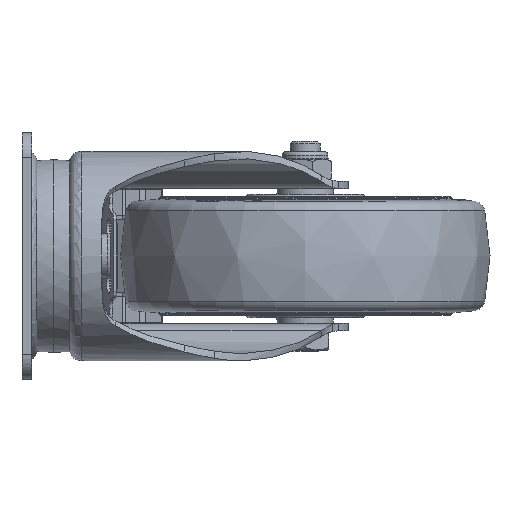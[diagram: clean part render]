
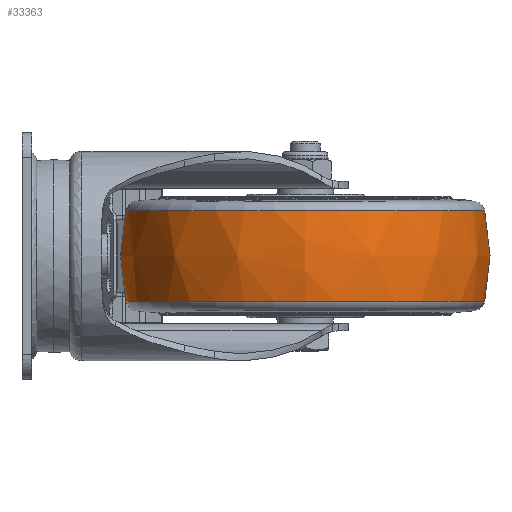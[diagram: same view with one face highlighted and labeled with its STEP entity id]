
A CAD part, left-side view. The second image highlights one B-rep face of the part: STEP entity #33363.
In plain terms, the highlighted free-form (B-spline) face has degree [2, 2] with [3, 9] control points.
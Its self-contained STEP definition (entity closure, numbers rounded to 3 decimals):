
#467=(
BOUNDED_SURFACE()
B_SPLINE_SURFACE(2,2,((#52019,#52020,#52021,#52022,#52023,#52024,#52025,
#52026,#52027),(#52028,#52029,#52030,#52031,#52032,#52033,#52034,#52035,
#52036),(#52037,#52038,#52039,#52040,#52041,#52042,#52043,#52044,#52045)),
 .UNSPECIFIED.,.F.,.T.,.F.)
B_SPLINE_SURFACE_WITH_KNOTS((3,3),(3,2,2,2,3),(-0.233,0.233),
(-3.142,-1.571,0.,1.571,3.142),
 .UNSPECIFIED.)
GEOMETRIC_REPRESENTATION_ITEM()
RATIONAL_B_SPLINE_SURFACE(((1.,0.707,1.,0.707,1.,
0.707,1.,0.707,1.),(0.973,0.688,
0.973,0.688,0.973,0.688,0.973,
0.688,0.973),(1.,0.707,1.,0.707,
1.,0.707,1.,0.707,1.)))
REPRESENTATION_ITEM('')
SURFACE()
);
#6834=FACE_OUTER_BOUND('',#8913,.T.);
#8913=EDGE_LOOP('',(#23694,#23695,#23696,#23697));
#10754=CIRCLE('',#35371,72.847);
#10755=CIRCLE('',#35372,72.847);
#10756=CIRCLE('',#35373,80.);
#13893=VERTEX_POINT('',#52016);
#13894=VERTEX_POINT('',#52046);
#17515=EDGE_CURVE('',#13893,#13893,#10754,.T.);
#17516=EDGE_CURVE('',#13894,#13894,#10755,.T.);
#17517=EDGE_CURVE('',#13894,#13893,#10756,.T.);
#23694=ORIENTED_EDGE('',*,*,#17516,.F.);
#23695=ORIENTED_EDGE('',*,*,#17517,.T.);
#23696=ORIENTED_EDGE('',*,*,#17515,.F.);
#23697=ORIENTED_EDGE('',*,*,#17517,.F.);
#33363=ADVANCED_FACE('',(#6834),#467,.F.);
#35371=AXIS2_PLACEMENT_3D('',#52018,#38541,#38542);
#35372=AXIS2_PLACEMENT_3D('',#52047,#38543,#38544);
#35373=AXIS2_PLACEMENT_3D('',#52048,#38545,#38546);
#38541=DIRECTION('center_axis',(0.,0.,
-1.));
#38542=DIRECTION('ref_axis',(0.,1.,0.));
#38543=DIRECTION('center_axis',(0.,0.,
1.));
#38544=DIRECTION('ref_axis',(0.,1.,0.));
#38545=DIRECTION('center_axis',(0.,-1.,0.));
#38546=DIRECTION('ref_axis',(-1.,0.,0.));
#52016=CARTESIAN_POINT('',(-28.347,-115.001,-18.435));
#52018=CARTESIAN_POINT('Origin',(44.5,-115.001,-18.435));
#52019=CARTESIAN_POINT('Ctrl Pts',(-28.347,-115.001,
18.435));
#52020=CARTESIAN_POINT('Ctrl Pts',(-28.347,-42.154,
18.435));
#52021=CARTESIAN_POINT('Ctrl Pts',(44.5,-42.154,18.435));
#52022=CARTESIAN_POINT('Ctrl Pts',(117.347,-42.154,18.435));
#52023=CARTESIAN_POINT('Ctrl Pts',(117.347,-115.001,18.435));
#52024=CARTESIAN_POINT('Ctrl Pts',(117.347,-187.848,18.435));
#52025=CARTESIAN_POINT('Ctrl Pts',(44.5,-187.848,18.435));
#52026=CARTESIAN_POINT('Ctrl Pts',(-28.347,-187.848,
18.435));
#52027=CARTESIAN_POINT('Ctrl Pts',(-28.347,-115.001,
18.435));
#52028=CARTESIAN_POINT('Ctrl Pts',(-32.713,-115.001,
0.));
#52029=CARTESIAN_POINT('Ctrl Pts',(-32.713,-37.789,0.));
#52030=CARTESIAN_POINT('Ctrl Pts',(44.5,-37.789,0.));
#52031=CARTESIAN_POINT('Ctrl Pts',(121.713,-37.789,0.));
#52032=CARTESIAN_POINT('Ctrl Pts',(121.713,-115.001,0.));
#52033=CARTESIAN_POINT('Ctrl Pts',(121.713,-192.214,0.));
#52034=CARTESIAN_POINT('Ctrl Pts',(44.5,-192.214,0.));
#52035=CARTESIAN_POINT('Ctrl Pts',(-32.713,-192.214,
0.));
#52036=CARTESIAN_POINT('Ctrl Pts',(-32.713,-115.001,
0.));
#52037=CARTESIAN_POINT('Ctrl Pts',(-28.347,-115.001,
-18.435));
#52038=CARTESIAN_POINT('Ctrl Pts',(-28.347,-42.154,
-18.435));
#52039=CARTESIAN_POINT('Ctrl Pts',(44.5,-42.154,-18.435));
#52040=CARTESIAN_POINT('Ctrl Pts',(117.347,-42.154,-18.435));
#52041=CARTESIAN_POINT('Ctrl Pts',(117.347,-115.001,-18.435));
#52042=CARTESIAN_POINT('Ctrl Pts',(117.347,-187.848,-18.435));
#52043=CARTESIAN_POINT('Ctrl Pts',(44.5,-187.848,-18.435));
#52044=CARTESIAN_POINT('Ctrl Pts',(-28.347,-187.848,
-18.435));
#52045=CARTESIAN_POINT('Ctrl Pts',(-28.347,-115.001,
-18.435));
#52046=CARTESIAN_POINT('',(-28.347,-115.001,18.435));
#52047=CARTESIAN_POINT('Origin',(44.5,-115.001,18.435));
#52048=CARTESIAN_POINT('Origin',(49.5,-115.001,0.));
